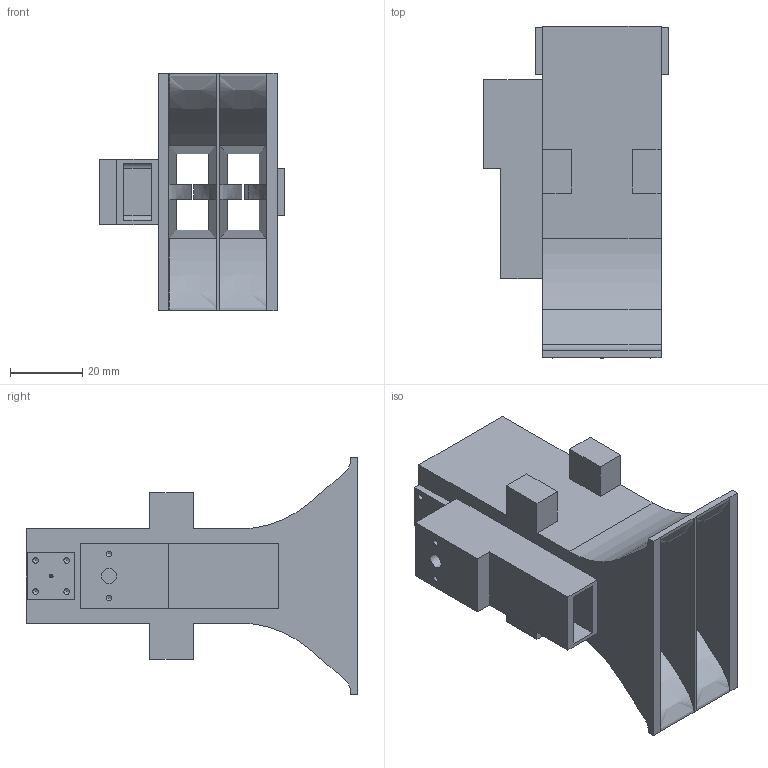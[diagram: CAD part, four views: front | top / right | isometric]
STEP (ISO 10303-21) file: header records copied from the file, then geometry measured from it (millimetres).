
FILE_DESCRIPTION(('STEP AP242'), '1');
FILE_NAME('ÑÈØÊ.757847.038 - Ðóïîð', '', ('UNSPECIFIED'), ('UNSPECIFIED'), 'C3D Converter', 'C3D Toolkit', '');
FILE_SCHEMA(('AP242_MANAGED_MODEL_BASED_3D_ENGINEERING_MIM_LF { 1 0 10303 442 1 1 4 }'));
Length unit declared in the file: millimetre
Products named in the file (1): СИШК.757847.038
Bounding box: 51.08 x 91.7 x 65.74 mm (x, y, z)
Volume: 54162.7 mm3; surface area: 35947.2 mm2
Topology: 1 solids, 1 shells, 171 faces, 462 edges, 291 vertices
Faces by surface type: plane 104, cylinder 30, cone 21, bspline 16
Full cylindrical faces by diameter (mm): 1.05 x2, 1.567 x10, 2.013 x5, 2.459 x4, 4.2 x1
Entity records: 7357 total; most frequent: CARTESIAN_POINT 2094, ORIENTED_EDGE 796, DIRECTION 716, EDGE_CURVE 398, LINE 276, VECTOR 276, VERTEX_POINT 270, EDGE_LOOP 222
